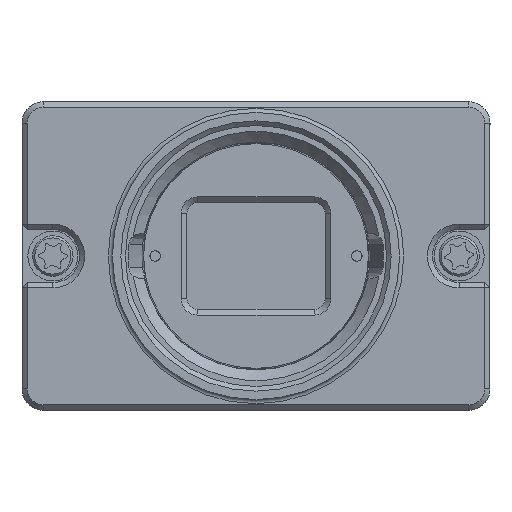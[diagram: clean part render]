
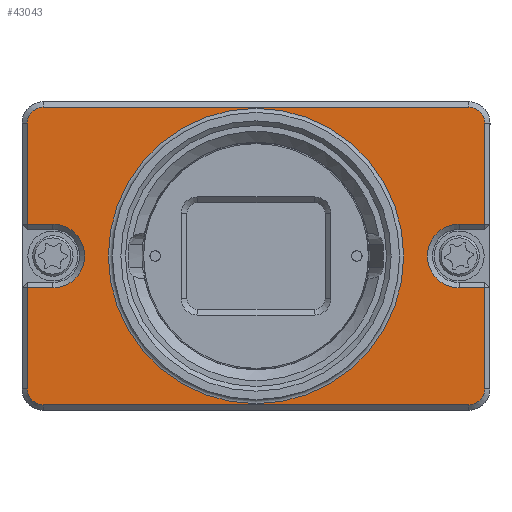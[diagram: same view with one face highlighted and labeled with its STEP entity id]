
A CAD part, front view. The second image highlights one B-rep face of the part: STEP entity #43043.
In plain terms, the highlighted planar face has unit normal (0, -1, 0).
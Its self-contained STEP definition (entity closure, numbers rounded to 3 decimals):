
#336=FACE_BOUND('',#4448,.T.);
#2119=FACE_OUTER_BOUND('',#4447,.T.);
#4447=EDGE_LOOP('',(#27952,#27953,#27954,#27955,#27956,#27957,#27958,#27959,
#27960,#27961,#27962,#27963,#27964,#27965,#27966,#27967));
#4448=EDGE_LOOP('',(#27968,#27969));
#6969=CIRCLE('',#45564,13.88);
#6970=CIRCLE('',#45565,13.88);
#6972=CIRCLE('',#45568,3.);
#6973=CIRCLE('',#45569,1.5);
#6974=CIRCLE('',#45570,1.5);
#6975=CIRCLE('',#45571,3.);
#6976=CIRCLE('',#45572,1.5);
#6977=CIRCLE('',#45573,1.5);
#7987=LINE('',#60574,#12437);
#7988=LINE('',#60576,#12438);
#7989=LINE('',#60580,#12439);
#7990=LINE('',#60582,#12440);
#7991=LINE('',#60586,#12441);
#7992=LINE('',#60590,#12442);
#7993=LINE('',#60592,#12443);
#7994=LINE('',#60596,#12444);
#7995=LINE('',#60598,#12445);
#7996=LINE('',#60602,#12446);
#12437=VECTOR('',#49222,10.);
#12438=VECTOR('',#49223,10.);
#12439=VECTOR('',#49226,10.);
#12440=VECTOR('',#49227,10.);
#12441=VECTOR('',#49230,10.);
#12442=VECTOR('',#49233,10.);
#12443=VECTOR('',#49234,10.);
#12444=VECTOR('',#49237,10.);
#12445=VECTOR('',#49238,10.);
#12446=VECTOR('',#49241,10.);
#17002=VERTEX_POINT('',#60565);
#17003=VERTEX_POINT('',#60567);
#17004=VERTEX_POINT('',#60572);
#17005=VERTEX_POINT('',#60573);
#17006=VERTEX_POINT('',#60575);
#17007=VERTEX_POINT('',#60577);
#17008=VERTEX_POINT('',#60579);
#17009=VERTEX_POINT('',#60581);
#17010=VERTEX_POINT('',#60583);
#17011=VERTEX_POINT('',#60585);
#17012=VERTEX_POINT('',#60587);
#17013=VERTEX_POINT('',#60589);
#17014=VERTEX_POINT('',#60591);
#17015=VERTEX_POINT('',#60593);
#17016=VERTEX_POINT('',#60595);
#17017=VERTEX_POINT('',#60597);
#17018=VERTEX_POINT('',#60599);
#17019=VERTEX_POINT('',#60601);
#21219=EDGE_CURVE('',#17002,#17003,#6969,.T.);
#21220=EDGE_CURVE('',#17003,#17002,#6970,.T.);
#21222=EDGE_CURVE('',#17004,#17005,#7987,.T.);
#21223=EDGE_CURVE('',#17006,#17004,#7988,.T.);
#21224=EDGE_CURVE('',#17007,#17006,#6972,.T.);
#21225=EDGE_CURVE('',#17008,#17007,#7989,.T.);
#21226=EDGE_CURVE('',#17009,#17008,#7990,.T.);
#21227=EDGE_CURVE('',#17010,#17009,#6973,.T.);
#21228=EDGE_CURVE('',#17011,#17010,#7991,.T.);
#21229=EDGE_CURVE('',#17012,#17011,#6974,.T.);
#21230=EDGE_CURVE('',#17013,#17012,#7992,.T.);
#21231=EDGE_CURVE('',#17014,#17013,#7993,.T.);
#21232=EDGE_CURVE('',#17015,#17014,#6975,.T.);
#21233=EDGE_CURVE('',#17016,#17015,#7994,.T.);
#21234=EDGE_CURVE('',#17017,#17016,#7995,.T.);
#21235=EDGE_CURVE('',#17018,#17017,#6976,.T.);
#21236=EDGE_CURVE('',#17019,#17018,#7996,.T.);
#21237=EDGE_CURVE('',#17005,#17019,#6977,.T.);
#27952=ORIENTED_EDGE('',*,*,#21222,.F.);
#27953=ORIENTED_EDGE('',*,*,#21223,.F.);
#27954=ORIENTED_EDGE('',*,*,#21224,.F.);
#27955=ORIENTED_EDGE('',*,*,#21225,.F.);
#27956=ORIENTED_EDGE('',*,*,#21226,.F.);
#27957=ORIENTED_EDGE('',*,*,#21227,.F.);
#27958=ORIENTED_EDGE('',*,*,#21228,.F.);
#27959=ORIENTED_EDGE('',*,*,#21229,.F.);
#27960=ORIENTED_EDGE('',*,*,#21230,.F.);
#27961=ORIENTED_EDGE('',*,*,#21231,.F.);
#27962=ORIENTED_EDGE('',*,*,#21232,.F.);
#27963=ORIENTED_EDGE('',*,*,#21233,.F.);
#27964=ORIENTED_EDGE('',*,*,#21234,.F.);
#27965=ORIENTED_EDGE('',*,*,#21235,.F.);
#27966=ORIENTED_EDGE('',*,*,#21236,.F.);
#27967=ORIENTED_EDGE('',*,*,#21237,.F.);
#27968=ORIENTED_EDGE('',*,*,#21220,.F.);
#27969=ORIENTED_EDGE('',*,*,#21219,.F.);
#39532=PLANE('',#45567);
#43043=ADVANCED_FACE('',(#2119,#336),#39532,.T.);
#45564=AXIS2_PLACEMENT_3D('',#60568,#49214,#49215);
#45565=AXIS2_PLACEMENT_3D('',#60569,#49216,#49217);
#45567=AXIS2_PLACEMENT_3D('',#60571,#49220,#49221);
#45568=AXIS2_PLACEMENT_3D('',#60578,#49224,#49225);
#45569=AXIS2_PLACEMENT_3D('',#60584,#49228,#49229);
#45570=AXIS2_PLACEMENT_3D('',#60588,#49231,#49232);
#45571=AXIS2_PLACEMENT_3D('',#60594,#49235,#49236);
#45572=AXIS2_PLACEMENT_3D('',#60600,#49239,#49240);
#45573=AXIS2_PLACEMENT_3D('',#60603,#49242,#49243);
#49214=DIRECTION('center_axis',(0.,-1.,0.));
#49215=DIRECTION('ref_axis',(1.,0.,0.));
#49216=DIRECTION('center_axis',(0.,-1.,0.));
#49217=DIRECTION('ref_axis',(1.,0.,0.));
#49220=DIRECTION('center_axis',(0.,-1.,0.));
#49221=DIRECTION('ref_axis',(-1.,0.,0.));
#49222=DIRECTION('',(0.,0.,1.));
#49223=DIRECTION('',(-1.,0.,0.));
#49224=DIRECTION('center_axis',(0.,-1.,0.));
#49225=DIRECTION('ref_axis',(1.,0.,0.));
#49226=DIRECTION('',(1.,0.,0.));
#49227=DIRECTION('',(0.,0.,1.));
#49228=DIRECTION('center_axis',(0.,1.,0.));
#49229=DIRECTION('ref_axis',(-0.707,0.,-0.707));
#49230=DIRECTION('',(-1.,0.,0.));
#49231=DIRECTION('center_axis',(0.,1.,0.));
#49232=DIRECTION('ref_axis',(0.707,0.,-0.707));
#49233=DIRECTION('',(0.,0.,-1.));
#49234=DIRECTION('',(1.,0.,0.));
#49235=DIRECTION('center_axis',(0.,-1.,0.));
#49236=DIRECTION('ref_axis',(-1.,0.,0.));
#49237=DIRECTION('',(-1.,0.,0.));
#49238=DIRECTION('',(0.,0.,-1.));
#49239=DIRECTION('center_axis',(0.,1.,0.));
#49240=DIRECTION('ref_axis',(0.707,0.,0.707));
#49241=DIRECTION('',(1.,0.,0.));
#49242=DIRECTION('center_axis',(0.,1.,0.));
#49243=DIRECTION('ref_axis',(-0.707,0.,0.707));
#60565=CARTESIAN_POINT('',(0.,-8.981,13.88));
#60567=CARTESIAN_POINT('',(-13.88,-8.981,0.));
#60568=CARTESIAN_POINT('Origin',(0.,-8.981,
0.));
#60569=CARTESIAN_POINT('Origin',(0.,-8.981,
0.));
#60571=CARTESIAN_POINT('Origin',(19.1,-8.981,0.));
#60572=CARTESIAN_POINT('',(-21.5,-8.981,3.));
#60573=CARTESIAN_POINT('',(-21.5,-8.981,12.5));
#60574=CARTESIAN_POINT('',(-21.5,-8.981,-7.25));
#60575=CARTESIAN_POINT('',(-19.1,-8.981,3.));
#60576=CARTESIAN_POINT('',(-1.45,-8.981,3.));
#60577=CARTESIAN_POINT('',(-19.1,-8.981,-3.));
#60578=CARTESIAN_POINT('Origin',(-19.1,-8.981,0.));
#60579=CARTESIAN_POINT('',(-21.5,-8.981,-3.));
#60580=CARTESIAN_POINT('',(0.,-8.981,-3.));
#60581=CARTESIAN_POINT('',(-21.5,-8.981,-12.5));
#60582=CARTESIAN_POINT('',(-21.5,-8.981,-7.25));
#60583=CARTESIAN_POINT('',(-20.,-8.981,-14.));
#60584=CARTESIAN_POINT('Origin',(-20.,-8.981,-12.5));
#60585=CARTESIAN_POINT('',(20.,-8.981,-14.));
#60586=CARTESIAN_POINT('',(20.55,-8.981,-14.));
#60587=CARTESIAN_POINT('',(21.5,-8.981,-12.5));
#60588=CARTESIAN_POINT('Origin',(20.,-8.981,-12.5));
#60589=CARTESIAN_POINT('',(21.5,-8.981,-3.));
#60590=CARTESIAN_POINT('',(21.5,-8.981,7.25));
#60591=CARTESIAN_POINT('',(19.1,-8.981,-3.));
#60592=CARTESIAN_POINT('',(20.55,-8.981,-3.));
#60593=CARTESIAN_POINT('',(19.1,-8.981,3.));
#60594=CARTESIAN_POINT('Origin',(19.1,-8.981,0.));
#60595=CARTESIAN_POINT('',(21.5,-8.981,3.));
#60596=CARTESIAN_POINT('',(19.1,-8.981,3.));
#60597=CARTESIAN_POINT('',(21.5,-8.981,12.5));
#60598=CARTESIAN_POINT('',(21.5,-8.981,7.25));
#60599=CARTESIAN_POINT('',(20.,-8.981,14.));
#60600=CARTESIAN_POINT('Origin',(20.,-8.981,12.5));
#60601=CARTESIAN_POINT('',(-20.,-8.981,14.));
#60602=CARTESIAN_POINT('',(-1.45,-8.981,14.));
#60603=CARTESIAN_POINT('Origin',(-20.,-8.981,12.5));
